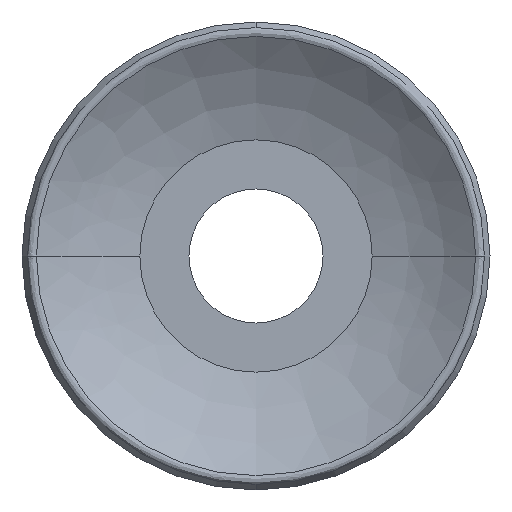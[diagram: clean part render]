
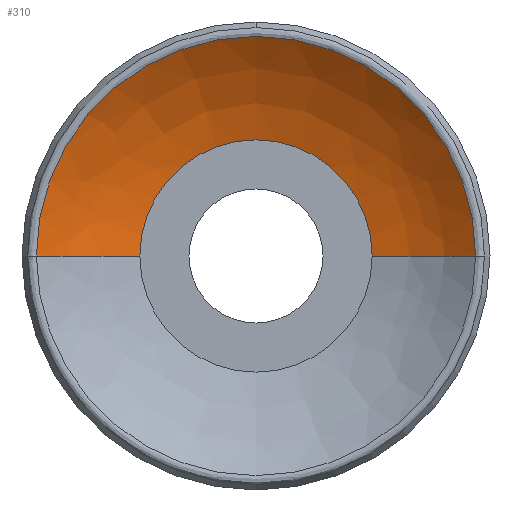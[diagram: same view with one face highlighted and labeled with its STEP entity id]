
A CAD part, front view. The second image highlights one B-rep face of the part: STEP entity #310.
In plain terms, the highlighted free-form (B-spline) face has degree [3, 3] with [4, 4] control points.
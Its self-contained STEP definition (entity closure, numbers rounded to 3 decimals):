
#5 = CARTESIAN_POINT ( 'NONE',  ( 0., -6.2, 0. ) ) ;
#9 = DIRECTION ( 'NONE',  ( 0., -1., 0. ) ) ;
#13 = DIRECTION ( 'NONE',  ( 0., 0., -1. ) ) ;
#34 = CARTESIAN_POINT ( 'NONE',  ( 0., -6.2, 0. ) ) ;
#48 = AXIS2_PLACEMENT_3D ( 'NONE', #389, #395, #401 ) ;
#58 = VERTEX_POINT ( 'NONE', #912 ) ;
#64 = EDGE_CURVE ( 'NONE', #801, #794, #110, .T. ) ;
#69 = CARTESIAN_POINT ( 'NONE',  ( 0., -6.2, 3.9 ) ) ;
#70 = CARTESIAN_POINT ( 'NONE',  ( 3.9, -6.2, 7.8 ) ) ;
#71 = CARTESIAN_POINT ( 'NONE',  ( -3.9, -6.2, 7.8 ) ) ;
#93 = CARTESIAN_POINT ( 'NONE',  ( -3.9, -6.2, 0. ) ) ;
#109 = ORIENTED_EDGE ( 'NONE', *, *, #514, .F. ) ;
#110 = CIRCLE ( 'NONE', #388, 3.9 ) ;
#112 = CARTESIAN_POINT ( 'NONE',  ( 7.373, -7.955, 0. ) ) ;
#116 = CARTESIAN_POINT ( 'NONE',  ( 3.9, -6.2, 0. ) ) ;
#132 = CARTESIAN_POINT ( 'NONE',  ( 3.9, -6.2, 0. ) ) ;
#170 = ORIENTED_EDGE ( 'NONE', *, *, #702, .F. ) ;
#173 = CARTESIAN_POINT ( 'NONE',  ( -5.177, -6.526, 0. ) ) ;
#197 =( BOUNDED_CURVE ( )  B_SPLINE_CURVE ( 3, ( #734, #844, #217, #407 ),
 .UNSPECIFIED., .F., .F. ) 
 B_SPLINE_CURVE_WITH_KNOTS ( ( 4, 4 ),
 ( 0., 1. ),
 .UNSPECIFIED. ) 
 CURVE ( )  GEOMETRIC_REPRESENTATION_ITEM ( )  RATIONAL_B_SPLINE_CURVE ( ( 1., 0.984, 0.984, 1. ) ) 
 REPRESENTATION_ITEM ( '' )  );
#217 = CARTESIAN_POINT ( 'NONE',  ( -6.353, -7.12, 0. ) ) ;
#259 = CIRCLE ( 'NONE', #48, 7.373 ) ;
#265 =( BOUNDED_CURVE ( )  B_SPLINE_CURVE ( 3, ( #491, #900, #394, #412 ),
 .UNSPECIFIED., .F., .T. ) 
 B_SPLINE_CURVE_WITH_KNOTS ( ( 4, 4 ),
 ( 0., 1. ),
 .UNSPECIFIED. ) 
 CURVE ( )  GEOMETRIC_REPRESENTATION_ITEM ( )  RATIONAL_B_SPLINE_CURVE ( ( 1., 0.984, 0.984, 1. ) ) 
 REPRESENTATION_ITEM ( '' )  );
#293 = DIRECTION ( 'NONE',  ( 0., -1., 0. ) ) ;
#310 = ADVANCED_FACE ( 'NONE', ( #411 ), #845, .F. ) ;
#324 = VERTEX_POINT ( 'NONE', #116 ) ;
#388 = AXIS2_PLACEMENT_3D ( 'NONE', #34, #293, #652 ) ;
#389 = CARTESIAN_POINT ( 'NONE',  ( 0., -7.955, 0. ) ) ;
#394 = CARTESIAN_POINT ( 'NONE',  ( 5.177, -6.526, 0. ) ) ;
#395 = DIRECTION ( 'NONE',  ( 0., 1., 0. ) ) ;
#401 = DIRECTION ( 'NONE',  ( 0., 0., 1. ) ) ;
#407 = CARTESIAN_POINT ( 'NONE',  ( -7.373, -7.955, 0. ) ) ;
#411 = FACE_OUTER_BOUND ( 'NONE', #724, .T. ) ;
#412 = CARTESIAN_POINT ( 'NONE',  ( 3.9, -6.2, 0. ) ) ;
#446 = CARTESIAN_POINT ( 'NONE',  ( -6.353, -7.12, 12.707 ) ) ;
#491 = CARTESIAN_POINT ( 'NONE',  ( 7.373, -7.955, 0. ) ) ;
#514 = EDGE_CURVE ( 'NONE', #794, #58, #197, .T. ) ;
#544 = ORIENTED_EDGE ( 'NONE', *, *, #711, .F. ) ;
#578 = AXIS2_PLACEMENT_3D ( 'NONE', #5, #9, #13 ) ;
#581 = VERTEX_POINT ( 'NONE', #610 ) ;
#596 = ORIENTED_EDGE ( 'NONE', *, *, #913, .F. ) ;
#609 = CARTESIAN_POINT ( 'NONE',  ( -5.177, -6.526, 10.354 ) ) ;
#610 = CARTESIAN_POINT ( 'NONE',  ( 7.373, -7.955, 0. ) ) ;
#630 = CARTESIAN_POINT ( 'NONE',  ( -3.9, -6.2, 0. ) ) ;
#652 = DIRECTION ( 'NONE',  ( 0., 0., -1. ) ) ;
#661 = CARTESIAN_POINT ( 'NONE',  ( 7.373, -7.955, 14.747 ) ) ;
#669 = CIRCLE ( 'NONE', #578, 3.9 ) ;
#702 = EDGE_CURVE ( 'NONE', #581, #324, #265, .T. ) ;
#711 = EDGE_CURVE ( 'NONE', #324, #801, #669, .T. ) ;
#717 = ORIENTED_EDGE ( 'NONE', *, *, #64, .F. ) ;
#724 = EDGE_LOOP ( 'NONE', ( #170, #596, #109, #717, #544 ) ) ;
#734 = CARTESIAN_POINT ( 'NONE',  ( -3.9, -6.2, 0. ) ) ;
#753 = CARTESIAN_POINT ( 'NONE',  ( 6.353, -7.12, 0. ) ) ;
#767 = CARTESIAN_POINT ( 'NONE',  ( -6.353, -7.12, 0. ) ) ;
#776 = CARTESIAN_POINT ( 'NONE',  ( 6.353, -7.12, 12.707 ) ) ;
#785 = CARTESIAN_POINT ( 'NONE',  ( 5.177, -6.526, 0. ) ) ;
#794 = VERTEX_POINT ( 'NONE', #93 ) ;
#801 = VERTEX_POINT ( 'NONE', #69 ) ;
#804 = CARTESIAN_POINT ( 'NONE',  ( -7.373, -7.955, 14.747 ) ) ;
#844 = CARTESIAN_POINT ( 'NONE',  ( -5.177, -6.526, 0. ) ) ;
#845 =( BOUNDED_SURFACE ( )  B_SPLINE_SURFACE ( 3, 3, ( 
 ( #630, #71, #70, #132 ),
 ( #173, #609, #866, #785 ),
 ( #767, #446, #776, #753 ),
 ( #908, #804, #661, #112 ) ),
 .UNSPECIFIED., .F., .F., .F. ) 
 B_SPLINE_SURFACE_WITH_KNOTS ( ( 4, 4 ),
 ( 4, 4 ),
 ( 0., 1. ),
 ( 0., 1. ),
 .UNSPECIFIED. ) 
 GEOMETRIC_REPRESENTATION_ITEM ( )  RATIONAL_B_SPLINE_SURFACE ( (
 ( 1., 0.333, 0.333, 1.),
 ( 0.984, 0.328, 0.328, 0.984),
 ( 0.984, 0.328, 0.328, 0.984),
 ( 1., 0.333, 0.333, 1.) ) ) 
 REPRESENTATION_ITEM ( '' )  SURFACE ( )  );
#866 = CARTESIAN_POINT ( 'NONE',  ( 5.177, -6.526, 10.354 ) ) ;
#900 = CARTESIAN_POINT ( 'NONE',  ( 6.353, -7.12, 0. ) ) ;
#908 = CARTESIAN_POINT ( 'NONE',  ( -7.373, -7.955, 0. ) ) ;
#912 = CARTESIAN_POINT ( 'NONE',  ( -7.373, -7.955, 0. ) ) ;
#913 = EDGE_CURVE ( 'NONE', #58, #581, #259, .T. ) ;
